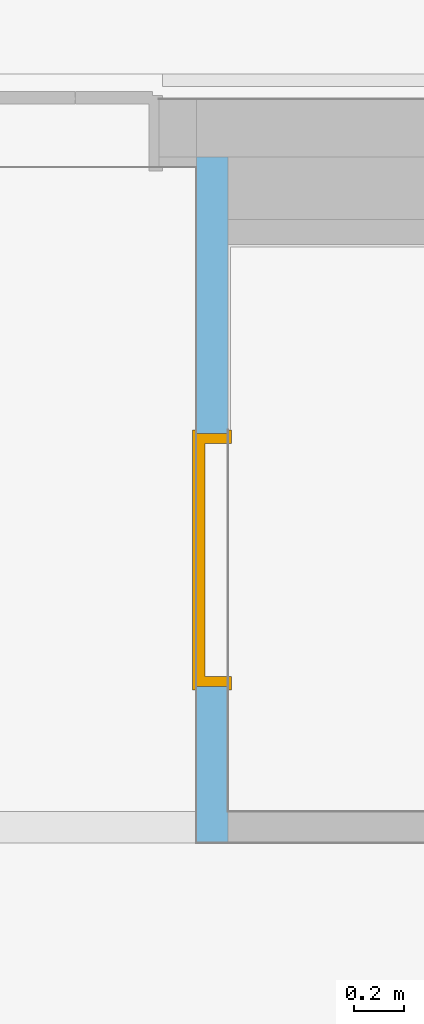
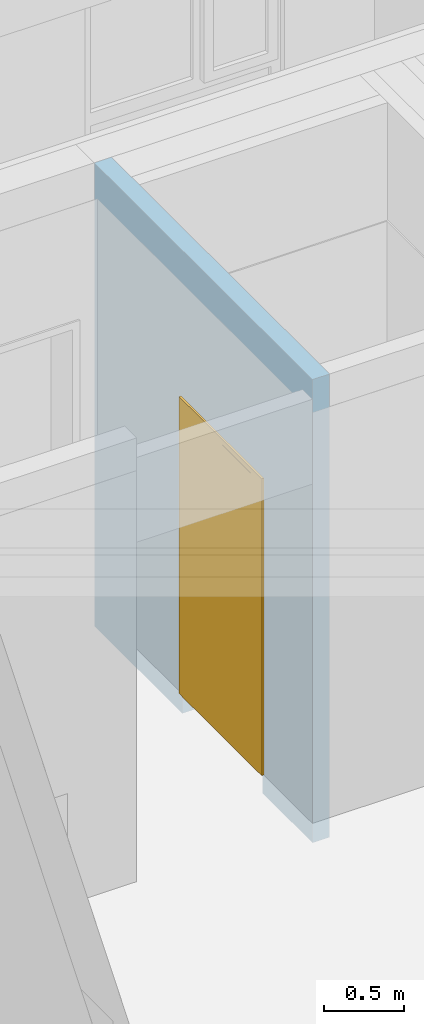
# One storey, part 64 of 222: 1 door, 1 opening, plus 1 element that does not belong to this part.
"""IFC4 building model written with IfcOpenShell, lengths in metres."""

from ifc_helpers import new_model, entity, si_unit, converted_unit, derived_unit, frame, frame_2d, origin, origin_with_axes, place, context, subcontext, project, spatial, polyline, rectangle, outline, extrude, faceted_brep, source, transform, mapped, material, type_object, element, fill, save


model = new_model("IFC4")

# Units and contexts
model_context = context("Model", 3, precision=1e-05, world=origin())
body_context = subcontext(model_context, "Body", "Model", "MODEL_VIEW")
ifc_project = project(units=[si_unit("LENGTHUNIT", "METRE"), si_unit("AREAUNIT", "SQUARE_METRE"), si_unit("VOLUMEUNIT", "CUBIC_METRE"), si_unit("MASSUNIT", "GRAM", prefix="KILO"), converted_unit("PLANEANGLEUNIT", "DEGREE", entity("IfcPlaneAngleMeasure", 0.0174532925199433), si_unit("PLANEANGLEUNIT", "RADIAN"), dimensions=[0, 0, 0, 0, 0, 0, 0]), derived_unit("THERMALTRANSMITTANCEUNIT", [(si_unit("POWERUNIT", "WATT"), 1), (si_unit("THERMODYNAMICTEMPERATUREUNIT", "KELVIN"), -1), (si_unit("LENGTHUNIT", "METRE"), -2)]), derived_unit("VOLUMETRICFLOWRATEUNIT", [(si_unit("LENGTHUNIT", "METRE"), 3), (converted_unit("TIMEUNIT", "hour", entity("IfcTimeMeasure", 3600.0), si_unit("TIMEUNIT", "SECOND"), dimensions=[0, 0, 1, 0, 0, 0, 0]), -1), (si_unit("LENGTHUNIT", "METRE"), -1)])], contexts=[model_context])

# Site, building, storey
site_placement = place(None, origin())
site = spatial("IfcSite", under=ifc_project, at=site_placement, Name="Psychiatrie Neubau Wunstorf", CompositionType="ELEMENT")
building_placement = place(site_placement, origin())
building = spatial("IfcBuilding", under=site, at=building_placement, Name="Neubau H2 Stationsgebäude", CompositionType="ELEMENT")
storey_placement = place(building_placement, frame((0.0, 0.0, 3.6)))
storey = spatial("IfcBuildingStorey", under=building, at=storey_placement, Name="H2 Ebene +1", CompositionType="ELEMENT", Elevation=3.6)

# Wall, opening, door
ifc_material_1 = material(Name="WI-LB")
wall_placement = place(storey_placement, frame((22.875, 4.09874963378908, 0.0), z_axis=(0.0, 0.0, 1.0), x_axis=(0.0, -1.0, 0.0)))
wall = element("IfcWall", 1, at=wall_placement, inside=storey, material=ifc_material_1, context=body_context, shape_type="SweptSolid", body=[
    extrude(rectangle(XDim=2.73999999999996, YDim=0.125, at=frame_2d((1.36999999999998, 0.0625), x_axis=(1.0, 0.0))), origin_with_axes(), (0.0, 0.0, 1.0), 3.55),
])
opening_placement = place(wall_placement, frame((2.11499999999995, 0.125, 0.0), z_axis=(0.0, -1.0, 0.0), x_axis=(0.0, 0.0, 1.0)))
opening = element("IfcOpeningElement", 2, at=opening_placement, cuts=wall, Name="Türöffnung", ObjectType="Opening", context=body_context, shape_type="SweptSolid", body=[
    extrude(outline(polyline([(2.41, 1.01), (2.41, 0.0), (0.0, 0.0), (0.0, 1.01), (2.41, 1.01)])), origin_with_axes(), (0.0, 0.0, 1.0), 0.125),
])
ifc_material_2 = material(Name="TI-1F-UZ-D-N")
door_type = type_object("IfcDoorType", Name="SMT", OperationType="SINGLE_SWING_RIGHT", ParameterTakesPrecedence=False, PredefinedType="DOOR")
shared_shape_1 = source(origin_with_axes(), body_context, "Body", "Brep", [
    faceted_brep([(1.05, 0.0125000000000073, 0.0), (1.05, 0.112500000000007, 0.0), (1.01, 0.112500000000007, 0.0), (1.01, 0.0125000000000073, 0.0), (1.05, 0.112500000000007, 3.55), (1.05, 0.0125000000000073, 3.55), (1.01, 0.0125000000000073, 3.55), (1.01, 0.112500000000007, 3.55)], [[[0, 1, 2, 3]], [[4, 5, 6, 7]], [[1, 0, 5, 4]], [[2, 1, 4, 7]], [[3, 2, 7, 6]], [[0, 3, 6, 5]]], orient=[[False], [False], [False], [False], [False], [False]]),
    faceted_brep([(0.0, 0.0125000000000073, 0.0), (0.0, 0.112500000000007, 0.0), (-0.0400000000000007, 0.112500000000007, 0.0), (-0.0400000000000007, 0.0125000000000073, 0.0), (0.0, 0.112500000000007, 3.55), (0.0, 0.0125000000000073, 3.55), (-0.0400000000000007, 0.0125000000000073, 3.55), (-0.0400000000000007, 0.112500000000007, 3.55)], [[[0, 1, 2, 3]], [[4, 5, 6, 7]], [[1, 0, 5, 4]], [[2, 1, 4, 7]], [[3, 2, 7, 6]], [[0, 3, 6, 5]]], orient=[[False], [False], [False], [False], [False], [False]]),
    faceted_brep([(1.01, 0.0125000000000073, 2.41), (1.01, 0.112500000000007, 2.41), (0.0, 0.112500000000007, 2.41), (0.0, 0.0125000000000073, 2.41), (1.01, 0.112500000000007, 2.45), (1.01, 0.0125000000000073, 2.45), (0.0, 0.0125000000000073, 2.45), (0.0, 0.112500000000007, 2.45)], [[[0, 1, 2, 3]], [[4, 5, 6, 7]], [[1, 0, 5, 4]], [[2, 1, 4, 7]], [[3, 2, 7, 6]], [[0, 3, 6, 5]]], orient=[[False], [False], [False], [False], [False], [False]]),
])
shared_shape_2 = source(origin_with_axes(), body_context, "Body", "Brep", [
    faceted_brep([(1.01, -0.0149999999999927, 2.41), (1.01, -0.0149999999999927, 0.15), (0.969999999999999, -0.0149999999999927, 0.15), (0.969999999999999, -0.0149999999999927, 2.41), (1.01, 0.140000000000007, 0.15), (1.01, 0.140000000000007, 2.41), (0.969999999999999, 0.140000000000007, 2.41), (0.969999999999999, 0.140000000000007, 0.15)], [[[0, 1, 2, 3]], [[4, 5, 6, 7]], [[1, 0, 5, 4]], [[2, 1, 4, 7]], [[3, 2, 7, 6]], [[0, 3, 6, 5]]], orient=[[False], [False], [False], [False], [False], [False]]),
    faceted_brep([(1.01, -0.0149999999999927, 2.425), (1.025, -0.0149999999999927, 2.425), (1.025, -0.0149999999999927, 0.15), (1.01, -0.0149999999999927, 0.15), (1.01, 0.0, 0.15), (1.025, 0.0, 0.15), (1.025, 0.0, 2.425), (1.01, 0.0, 2.425)], [[[0, 1, 2, 3]], [[4, 5, 6, 7]], [[3, 4, 7, 0]], [[2, 5, 4, 3]], [[1, 6, 5, 2]], [[0, 7, 6, 1]]], orient=[[False], [False], [False], [False], [False], [False]]),
    faceted_brep([(1.01, 0.125000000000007, 2.425), (1.025, 0.125000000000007, 2.425), (1.025, 0.125000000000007, 0.15), (1.01, 0.125000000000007, 0.15), (1.01, 0.140000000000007, 0.15), (1.025, 0.140000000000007, 0.15), (1.025, 0.140000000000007, 2.425), (1.01, 0.140000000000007, 2.425)], [[[0, 1, 2, 3]], [[4, 5, 6, 7]], [[3, 4, 7, 0]], [[2, 5, 4, 3]], [[1, 6, 5, 2]], [[0, 7, 6, 1]]], orient=[[False], [False], [False], [False], [False], [False]]),
    faceted_brep([(0.0399999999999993, -0.0149999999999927, 2.41), (0.0399999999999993, -0.0149999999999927, 0.15), (0.0, -0.0149999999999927, 0.15), (0.0, -0.0149999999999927, 2.41), (0.0399999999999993, 0.140000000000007, 0.15), (0.0399999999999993, 0.140000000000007, 2.41), (0.0, 0.140000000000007, 2.41), (0.0, 0.140000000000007, 0.15)], [[[0, 1, 2, 3]], [[4, 5, 6, 7]], [[1, 0, 5, 4]], [[2, 1, 4, 7]], [[3, 2, 7, 6]], [[0, 3, 6, 5]]], orient=[[False], [False], [False], [False], [False], [False]]),
    faceted_brep([(0.0, -0.0149999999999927, 2.425), (0.0, -0.0149999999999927, 0.15), (-0.0150000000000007, -0.0149999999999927, 0.15), (-0.0150000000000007, -0.0149999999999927, 2.425), (0.0, 0.0, 0.15), (0.0, 0.0, 2.425), (-0.0150000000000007, 0.0, 2.425), (-0.0150000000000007, 0.0, 0.15)], [[[0, 1, 2, 3]], [[4, 5, 6, 7]], [[1, 0, 5, 4]], [[2, 1, 4, 7]], [[3, 2, 7, 6]], [[0, 3, 6, 5]]], orient=[[False], [False], [False], [False], [False], [False]]),
    faceted_brep([(0.0, 0.125000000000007, 2.425), (0.0, 0.125000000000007, 0.15), (-0.0150000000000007, 0.125000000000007, 0.15), (-0.0150000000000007, 0.125000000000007, 2.425), (0.0, 0.140000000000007, 0.15), (0.0, 0.140000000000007, 2.425), (-0.0150000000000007, 0.140000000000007, 2.425), (-0.0150000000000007, 0.140000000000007, 0.15)], [[[0, 1, 2, 3]], [[4, 5, 6, 7]], [[1, 0, 5, 4]], [[2, 1, 4, 7]], [[3, 2, 7, 6]], [[0, 3, 6, 5]]], orient=[[False], [False], [False], [False], [False], [False]]),
    faceted_brep([(0.969999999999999, -0.0149999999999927, 2.41), (0.969999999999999, -0.0149999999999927, 2.37), (0.0399999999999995, -0.0149999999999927, 2.37), (0.0399999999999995, -0.0149999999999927, 2.41), (0.969999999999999, 0.140000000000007, 2.37), (0.969999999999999, 0.140000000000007, 2.41), (0.0399999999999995, 0.140000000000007, 2.41), (0.0399999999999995, 0.140000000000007, 2.37)], [[[0, 1, 2, 3]], [[4, 5, 6, 7]], [[1, 0, 5, 4]], [[2, 1, 4, 7]], [[3, 2, 7, 6]], [[0, 3, 6, 5]]], orient=[[False], [False], [False], [False], [False], [False]]),
    faceted_brep([(1.01, -0.0149999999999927, 2.425), (1.01, -0.0149999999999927, 2.41), (0.0, -0.0149999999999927, 2.41), (0.0, -0.0149999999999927, 2.425), (1.01, 0.0, 2.41), (1.01, 0.0, 2.425), (0.0, 0.0, 2.425), (0.0, 0.0, 2.41)], [[[0, 1, 2, 3]], [[4, 5, 6, 7]], [[1, 0, 5, 4]], [[2, 1, 4, 7]], [[3, 2, 7, 6]], [[0, 3, 6, 5]]], orient=[[False], [False], [False], [False], [False], [False]]),
    faceted_brep([(1.01, 0.125000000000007, 2.425), (1.01, 0.125000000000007, 2.41), (0.0, 0.125000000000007, 2.41), (0.0, 0.125000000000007, 2.425), (1.01, 0.140000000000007, 2.41), (1.01, 0.140000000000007, 2.425), (0.0, 0.140000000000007, 2.425), (0.0, 0.140000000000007, 2.41)], [[[0, 1, 2, 3]], [[4, 5, 6, 7]], [[1, 0, 5, 4]], [[2, 1, 4, 7]], [[3, 2, 7, 6]], [[0, 3, 6, 5]]], orient=[[False], [False], [False], [False], [False], [False]]),
    faceted_brep([(0.984999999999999, 0.0910000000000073, 2.385), (0.984999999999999, 0.0910000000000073, 0.15), (0.0249999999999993, 0.0910000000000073, 0.15), (0.0249999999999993, 0.0910000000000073, 2.385), (0.984999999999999, 0.141000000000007, 0.15), (0.984999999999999, 0.141000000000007, 2.385), (0.0249999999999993, 0.141000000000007, 2.385), (0.0249999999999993, 0.141000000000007, 0.15)], [[[0, 1, 2, 3]], [[4, 5, 6, 7]], [[1, 0, 5, 4]], [[2, 1, 4, 7]], [[3, 2, 7, 6]], [[0, 3, 6, 5]]], orient=[[False], [False], [False], [False], [False], [False]]),
])
door_placement = place(opening_placement, frame((0.0, 0.0, 0.0), z_axis=(1.0, 0.0, 0.0), x_axis=(0.0, 1.0, 0.0)))
door = element("IfcDoor", 3, at=door_placement, inside=storey, type_object=door_type, material=ifc_material_2, Name="SMT", OverallHeight=2.41, OverallWidth=1.01, context=body_context, shape_type="MappedRepresentation", body=[
    mapped(shared_shape_1, transform((0.0, 0.0, 0.0), x_axis=(1.0, 0.0, 0.0), y_axis=(0.0, 1.0, 0.0), z_axis=(0.0, 0.0, 1.0), scale=1.0)),
    mapped(shared_shape_2, transform((0.0, 0.0, 0.0), x_axis=(1.0, 0.0, 0.0), y_axis=(0.0, 1.0, 0.0), z_axis=(0.0, 0.0, 1.0), scale=1.0)),
])
fill(opening, door)

save(model, "model.ifc")
